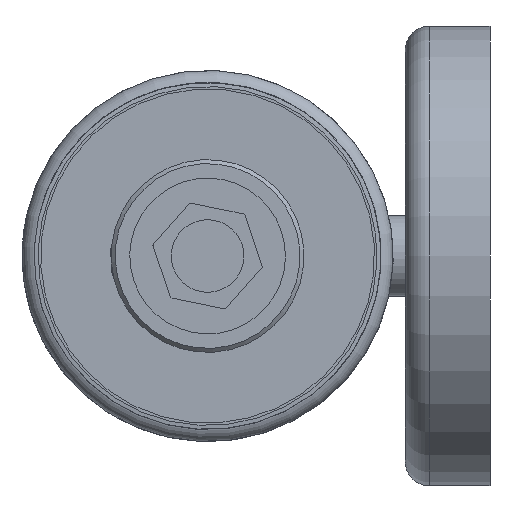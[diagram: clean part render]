
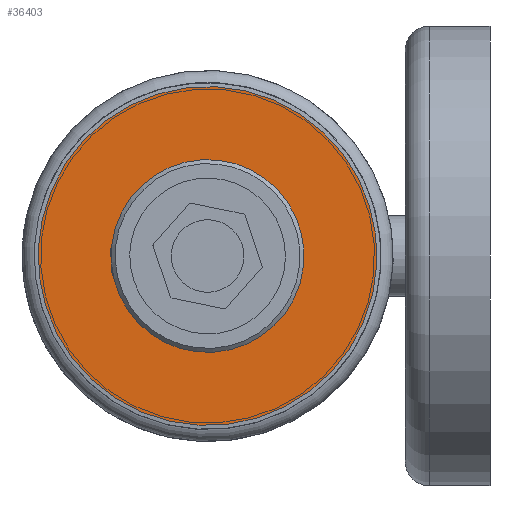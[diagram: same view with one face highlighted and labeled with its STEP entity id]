
A CAD part, left-side view. The second image highlights one B-rep face of the part: STEP entity #36403.
In plain terms, the highlighted planar face has unit normal (-1, 0, 0).
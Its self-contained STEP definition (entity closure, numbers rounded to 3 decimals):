
#103 = AXIS2_PLACEMENT_3D ( 'NONE', #8720, #8205, #40854 ) ;
#1093 = DIRECTION ( 'NONE',  ( 0., 0.975, 0.223 ) ) ;
#3906 = CIRCLE ( 'NONE', #22719, 21. ) ;
#4930 = ORIENTED_EDGE ( 'NONE', *, *, #39197, .T. ) ;
#8205 = DIRECTION ( 'NONE',  ( 1., 0., 0. ) ) ;
#8720 = CARTESIAN_POINT ( 'NONE',  ( -152.7, 30.31, 20.47 ) ) ;
#21023 = VERTEX_POINT ( 'NONE', #37311 ) ;
#21432 = CARTESIAN_POINT ( 'NONE',  ( -152.7, 35., 0. ) ) ;
#22719 = AXIS2_PLACEMENT_3D ( 'NONE', #40544, #40017, #28443 ) ;
#22935 = CIRCLE ( 'NONE', #27972, 6.5 ) ;
#23481 = PLANE ( 'NONE',  #103 ) ;
#24082 = EDGE_LOOP ( 'NONE', ( #4930 ) ) ;
#26844 = CARTESIAN_POINT ( 'NONE',  ( -152.7, 55.47, 4.69 ) ) ;
#27972 = AXIS2_PLACEMENT_3D ( 'NONE', #21432, #37696, #1093 ) ;
#28443 = DIRECTION ( 'NONE',  ( 0., 0.975, 0.223 ) ) ;
#30124 = EDGE_LOOP ( 'NONE', ( #42776 ) ) ;
#36285 = FACE_OUTER_BOUND ( 'NONE', #30124, .T. ) ;
#36403 = ADVANCED_FACE ( 'NONE', ( #36285, #46812 ), #23481, .F. ) ;
#37311 = CARTESIAN_POINT ( 'NONE',  ( -152.7, 41.336, 1.452 ) ) ;
#37696 = DIRECTION ( 'NONE',  ( 1., 0., 0. ) ) ;
#39197 = EDGE_CURVE ( 'NONE', #21023, #21023, #22935, .T. ) ;
#40017 = DIRECTION ( 'NONE',  ( 1., 0., 0. ) ) ;
#40544 = CARTESIAN_POINT ( 'NONE',  ( -152.7, 35., 0. ) ) ;
#40854 = DIRECTION ( 'NONE',  ( 0., 0.975, 0.223 ) ) ;
#42097 = VERTEX_POINT ( 'NONE', #26844 ) ;
#42776 = ORIENTED_EDGE ( 'NONE', *, *, #47565, .F. ) ;
#46812 = FACE_BOUND ( 'NONE', #24082, .T. ) ;
#47565 = EDGE_CURVE ( 'NONE', #42097, #42097, #3906, .T. ) ;
